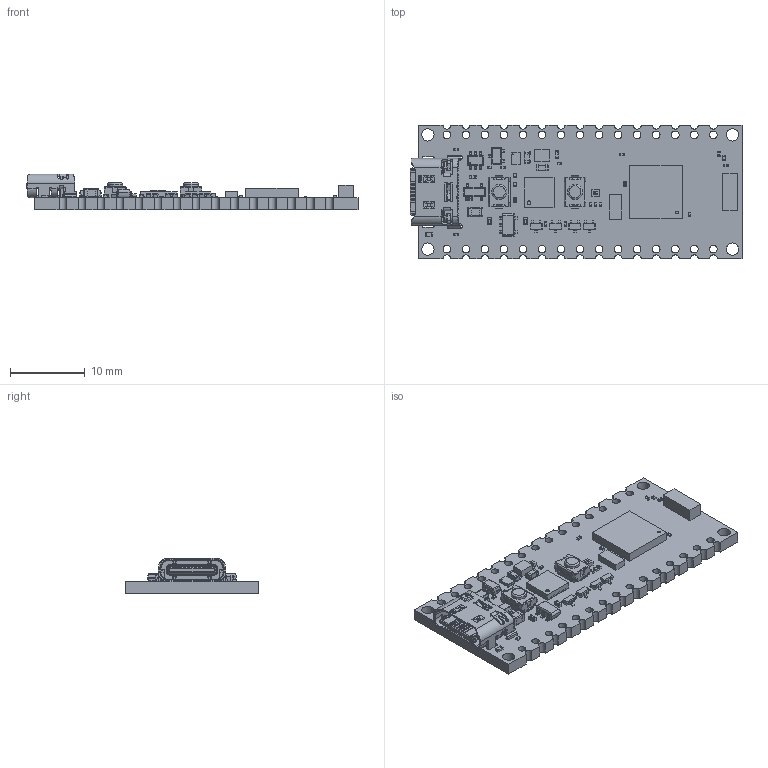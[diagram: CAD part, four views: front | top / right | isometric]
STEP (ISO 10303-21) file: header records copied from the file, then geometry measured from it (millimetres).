
FILE_DESCRIPTION(('Open CASCADE Model'),'2;1');
FILE_NAME('Open CASCADE Shape Model','2024-03-12T23:21:26',('Author'),( 'Open CASCADE'),'Open CASCADE STEP processor 7.5','Open CASCADE 7.5' ,'Unknown');
FILE_SCHEMA(('AUTOMOTIVE_DESIGN { 1 0 10303 214 1 1 1 1 }'));
Length unit declared in the file: millimetre
Products named in the file (85): Open CASCADE STEP translator 7.5 2; Open CASCADE STEP translator 7.5 3; Open CASCADE STEP translator 7.5 4; Open CASCADE STEP translator 7.5 5; Open CASCADE STEP translator 7.5 6; Open CASCADE STEP translator 7.5 7; Open CASCADE STEP translator 7.5 8; Open CASCADE STEP translator 7.5 9; Open CASCADE STEP translator 7.5 10; Open CASCADE STEP translator 7.5 11; Open CASCADE STEP translator 7.5 12; Open CASCADE STEP translator 7.5 13; Open CASCADE STEP translator 7.5 14; Open CASCADE STEP translator 7.5 15; Open CASCADE STEP translator 7.5 16; Open CASCADE STEP translator 7.5 17; Open CASCADE STEP translator 7.5 18; Open CASCADE STEP translator 7.5 19; Open CASCADE STEP translator 7.5 20; Open CASCADE STEP translator 7.5 21; Open CASCADE STEP translator 7.5 22; Open CASCADE STEP translator 7.5 23; Open CASCADE STEP translator 7.5 24; Open CASCADE STEP translator 7.5 25; Open CASCADE STEP translator 7.5 26; Open CASCADE STEP translator 7.5 27; Open CASCADE STEP translator 7.5 28; Open CASCADE STEP translator 7.5 29; Open CASCADE STEP translator 7.5 30; Open CASCADE STEP translator 7.5 31; Open CASCADE STEP translator 7.5 32; Open CASCADE STEP translator 7.5 33; Open CASCADE STEP translator 7.5 34; Open CASCADE STEP translator 7.5 35; Open CASCADE STEP translator 7.5 36; Open CASCADE STEP translator 7.5 37; Open CASCADE STEP translator 7.5 38; Open CASCADE STEP translator 7.5 39; Open CASCADE STEP translator 7.5 40; Open CASCADE STEP translator 7.5 41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
Bounding box: 44.29 x 17.78 x 4.78 mm (x, y, z)
Volume: 1395.2 mm3; surface area: 2909 mm2
Topology: 137 solids, 140 shells, 4470 faces, 11325 edges, 6970 vertices
Faces by surface type: plane 3074, cylinder 1086, bspline 134, sphere 120, cone 46, revolution 8, torus 2
Full cylindrical faces by diameter (mm): 0.2 x1, 0.351 x1, 0.45 x2, 0.5 x1, 0.6 x2, 0.8 x2, 1.016 x30, 1.652 x4, 2 x2, 2.05 x2
Entity records: 157849 total; most frequent: CARTESIAN_POINT 28181, ORIENTED_EDGE 22417, DIRECTION 21781, EDGE_CURVE 11209, LINE 8595, VECTOR 8595, VERTEX_POINT 6970, AXIS2_PLACEMENT_3D 6589
